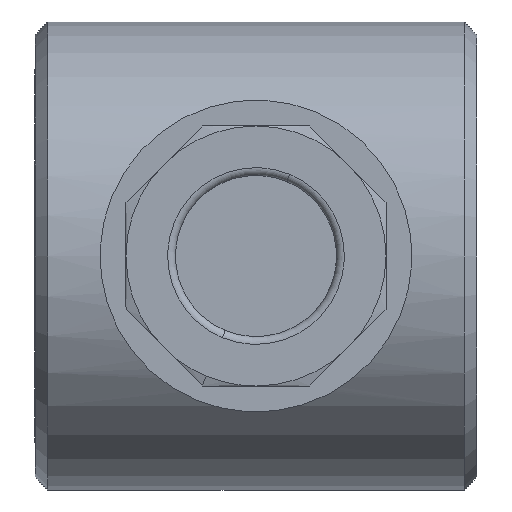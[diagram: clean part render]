
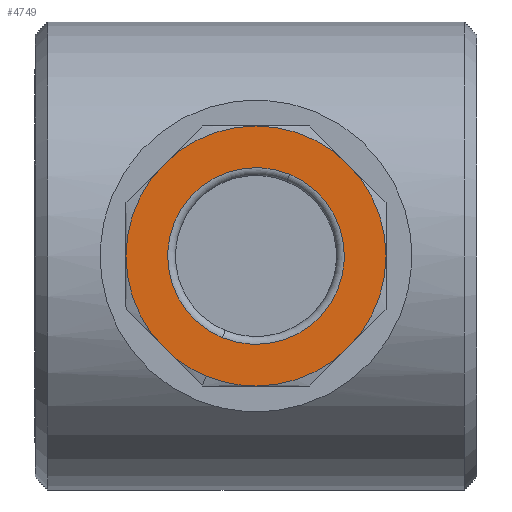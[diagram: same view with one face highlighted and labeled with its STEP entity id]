
A CAD part, left-side view. The second image highlights one B-rep face of the part: STEP entity #4749.
In plain terms, the highlighted planar face has unit normal (-1, 0, 0).
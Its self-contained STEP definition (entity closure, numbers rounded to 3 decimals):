
#241 = CARTESIAN_POINT ( 'NONE',  ( -25.3, 9.5, 0. ) ) ;
#242 = DIRECTION ( 'NONE',  ( 1., 0., 0. ) ) ;
#243 = DIRECTION ( 'NONE',  ( 0., -0.383, 0.924 ) ) ;
#264 = CARTESIAN_POINT ( 'NONE',  ( -25.3, 9.5, 0. ) ) ;
#265 = DIRECTION ( 'NONE',  ( 1., 0., 0. ) ) ;
#266 = DIRECTION ( 'NONE',  ( 0., 0.383, -0.924 ) ) ;
#267 = CARTESIAN_POINT ( 'NONE',  ( -25.3, 9.5, 0. ) ) ;
#268 = DIRECTION ( 'NONE',  ( 1., 0., 0. ) ) ;
#269 = DIRECTION ( 'NONE',  ( 0., 0.383, -0.924 ) ) ;
#270 = CARTESIAN_POINT ( 'NONE',  ( -25.3, 9.5, 0. ) ) ;
#271 = DIRECTION ( 'NONE',  ( 1., 0., 0. ) ) ;
#272 = DIRECTION ( 'NONE',  ( 0., 0.383, -0.924 ) ) ;
#273 = CARTESIAN_POINT ( 'NONE',  ( -25.3, 9.5, 0. ) ) ;
#274 = DIRECTION ( 'NONE',  ( 1., 0., 0. ) ) ;
#275 = DIRECTION ( 'NONE',  ( 0., 0.383, -0.924 ) ) ;
#276 = CARTESIAN_POINT ( 'NONE',  ( -25.3, 9.5, 0. ) ) ;
#277 = DIRECTION ( 'NONE',  ( 1., 0., 0. ) ) ;
#278 = DIRECTION ( 'NONE',  ( 0., 0.383, -0.924 ) ) ;
#279 = CARTESIAN_POINT ( 'NONE',  ( -25.3, 9.5, 0. ) ) ;
#280 = DIRECTION ( 'NONE',  ( 1., 0., 0. ) ) ;
#281 = DIRECTION ( 'NONE',  ( 0., 0.383, -0.924 ) ) ;
#282 = CARTESIAN_POINT ( 'NONE',  ( -25.3, 9.5, 0. ) ) ;
#283 = DIRECTION ( 'NONE',  ( 1., 0., 0. ) ) ;
#284 = DIRECTION ( 'NONE',  ( 0., 0.383, -0.924 ) ) ;
#285 = CARTESIAN_POINT ( 'NONE',  ( -25.3, 9.5, 0. ) ) ;
#286 = DIRECTION ( 'NONE',  ( 1., 0., 0. ) ) ;
#287 = DIRECTION ( 'NONE',  ( 0., -0.383, 0.924 ) ) ;
#288 = CARTESIAN_POINT ( 'NONE',  ( -25.3, 9.5, 0. ) ) ;
#289 = DIRECTION ( 'NONE',  ( 1., 0., 0. ) ) ;
#290 = DIRECTION ( 'NONE',  ( 0., 0.383, -0.924 ) ) ;
#707 = CARTESIAN_POINT ( 'NONE',  ( -25.3, 11.413, -4.619 ) ) ;
#710 = CARTESIAN_POINT ( 'NONE',  ( -25.3, 9.5, -5. ) ) ;
#711 = CARTESIAN_POINT ( 'NONE',  ( -25.3, 8.199, 3.141 ) ) ;
#716 = CARTESIAN_POINT ( 'NONE',  ( -25.3, 10.801, -3.141 ) ) ;
#769 = EDGE_CURVE ( 'NONE', #1755, #1752, #4390, .T. ) ;
#890 = AXIS2_PLACEMENT_3D ( 'NONE', #1497, #1498, #1499 ) ;
#1490 = PLANE ( 'NONE',  #890 ) ;
#1497 = CARTESIAN_POINT ( 'NONE',  ( -25.3, 14.119, 1.913 ) ) ;
#1498 = DIRECTION ( 'NONE',  ( -1., 0., 0. ) ) ;
#1499 = DIRECTION ( 'NONE',  ( 0., -0.383, 0.924 ) ) ;
#1613 = ORIENTED_EDGE ( 'NONE', *, *, #2911, .T. ) ;
#1614 = ORIENTED_EDGE ( 'NONE', *, *, #2250, .T. ) ;
#1615 = ORIENTED_EDGE ( 'NONE', *, *, #2910, .F. ) ;
#1616 = ORIENTED_EDGE ( 'NONE', *, *, #2909, .F. ) ;
#1617 = ORIENTED_EDGE ( 'NONE', *, *, #769, .F. ) ;
#1618 = ORIENTED_EDGE ( 'NONE', *, *, #2912, .F. ) ;
#1619 = ORIENTED_EDGE ( 'NONE', *, *, #2908, .F. ) ;
#1620 = ORIENTED_EDGE ( 'NONE', *, *, #2907, .F. ) ;
#1621 = ORIENTED_EDGE ( 'NONE', *, *, #2906, .F. ) ;
#1622 = ORIENTED_EDGE ( 'NONE', *, *, #2905, .F. ) ;
#1623 = ORIENTED_EDGE ( 'NONE', *, *, #2904, .F. ) ;
#1752 = VERTEX_POINT ( 'NONE', #707 ) ;
#1755 = VERTEX_POINT ( 'NONE', #710 ) ;
#1756 = VERTEX_POINT ( 'NONE', #711 ) ;
#1761 = VERTEX_POINT ( 'NONE', #716 ) ;
#1976 = CIRCLE ( 'NONE', #2743, 3.4 ) ;
#1980 = CIRCLE ( 'NONE', #2747, 5. ) ;
#1981 = CIRCLE ( 'NONE', #2746, 5. ) ;
#1982 = CIRCLE ( 'NONE', #2749, 5. ) ;
#1986 = CIRCLE ( 'NONE', #2748, 5. ) ;
#1987 = CIRCLE ( 'NONE', #2750, 5. ) ;
#1988 = CIRCLE ( 'NONE', #2751, 5. ) ;
#1989 = CIRCLE ( 'NONE', #2752, 5. ) ;
#1990 = CIRCLE ( 'NONE', #2753, 3.4 ) ;
#1991 = CIRCLE ( 'NONE', #2754, 5. ) ;
#2250 = EDGE_CURVE ( 'NONE', #1761, #1756, #1976, .T. ) ;
#2743 = AXIS2_PLACEMENT_3D ( 'NONE', #241, #242, #243 ) ;
#2746 = AXIS2_PLACEMENT_3D ( 'NONE', #264, #265, #266 ) ;
#2747 = AXIS2_PLACEMENT_3D ( 'NONE', #267, #268, #269 ) ;
#2748 = AXIS2_PLACEMENT_3D ( 'NONE', #270, #271, #272 ) ;
#2749 = AXIS2_PLACEMENT_3D ( 'NONE', #273, #274, #275 ) ;
#2750 = AXIS2_PLACEMENT_3D ( 'NONE', #276, #277, #278 ) ;
#2751 = AXIS2_PLACEMENT_3D ( 'NONE', #279, #280, #281 ) ;
#2752 = AXIS2_PLACEMENT_3D ( 'NONE', #282, #283, #284 ) ;
#2753 = AXIS2_PLACEMENT_3D ( 'NONE', #285, #286, #287 ) ;
#2754 = AXIS2_PLACEMENT_3D ( 'NONE', #288, #289, #290 ) ;
#2904 = EDGE_CURVE ( 'NONE', #2991, #2984, #1981, .T. ) ;
#2905 = EDGE_CURVE ( 'NONE', #2984, #2997, #1980, .T. ) ;
#2906 = EDGE_CURVE ( 'NONE', #2997, #2999, #1986, .T. ) ;
#2907 = EDGE_CURVE ( 'NONE', #2999, #3006, #1982, .T. ) ;
#2908 = EDGE_CURVE ( 'NONE', #3006, #3008, #1987, .T. ) ;
#2909 = EDGE_CURVE ( 'NONE', #1752, #2993, #1988, .T. ) ;
#2910 = EDGE_CURVE ( 'NONE', #2993, #2991, #1989, .T. ) ;
#2911 = EDGE_CURVE ( 'NONE', #1756, #1761, #1990, .T. ) ;
#2912 = EDGE_CURVE ( 'NONE', #3008, #1755, #1991, .T. ) ;
#2984 = VERTEX_POINT ( 'NONE', #3254 ) ;
#2991 = VERTEX_POINT ( 'NONE', #3268 ) ;
#2993 = VERTEX_POINT ( 'NONE', #3271 ) ;
#2997 = VERTEX_POINT ( 'NONE', #3278 ) ;
#2999 = VERTEX_POINT ( 'NONE', #3283 ) ;
#3006 = VERTEX_POINT ( 'NONE', #3294 ) ;
#3008 = VERTEX_POINT ( 'NONE', #3299 ) ;
#3065 = AXIS2_PLACEMENT_3D ( 'NONE', #4770, #4769, #4768 ) ;
#3254 = CARTESIAN_POINT ( 'NONE',  ( -25.3, 13.036, 3.536 ) ) ;
#3268 = CARTESIAN_POINT ( 'NONE',  ( -25.3, 14.5, 0. ) ) ;
#3271 = CARTESIAN_POINT ( 'NONE',  ( -25.3, 13.036, -3.536 ) ) ;
#3278 = CARTESIAN_POINT ( 'NONE',  ( -25.3, 9.5, 5. ) ) ;
#3283 = CARTESIAN_POINT ( 'NONE',  ( -25.3, 5.964, 3.536 ) ) ;
#3294 = CARTESIAN_POINT ( 'NONE',  ( -25.3, 4.5, 0. ) ) ;
#3299 = CARTESIAN_POINT ( 'NONE',  ( -25.3, 5.964, -3.536 ) ) ;
#4206 = EDGE_LOOP ( 'NONE', ( #1613, #1614 ) ) ;
#4224 = EDGE_LOOP ( 'NONE', ( #1615, #1616, #1617, #1618, #1619, #1620, #1621, #1622, #1623 ) ) ;
#4390 = CIRCLE ( 'NONE', #3065, 5. ) ;
#4427 = FACE_BOUND ( 'NONE', #4206, .T. ) ;
#4428 = FACE_OUTER_BOUND ( 'NONE', #4224, .T. ) ;
#4749 = ADVANCED_FACE ( 'NONE', ( #4427, #4428 ), #1490, .T. ) ;
#4768 = DIRECTION ( 'NONE',  ( 0., 0.383, -0.924 ) ) ;
#4769 = DIRECTION ( 'NONE',  ( 1., 0., 0. ) ) ;
#4770 = CARTESIAN_POINT ( 'NONE',  ( -25.3, 9.5, 0. ) ) ;
